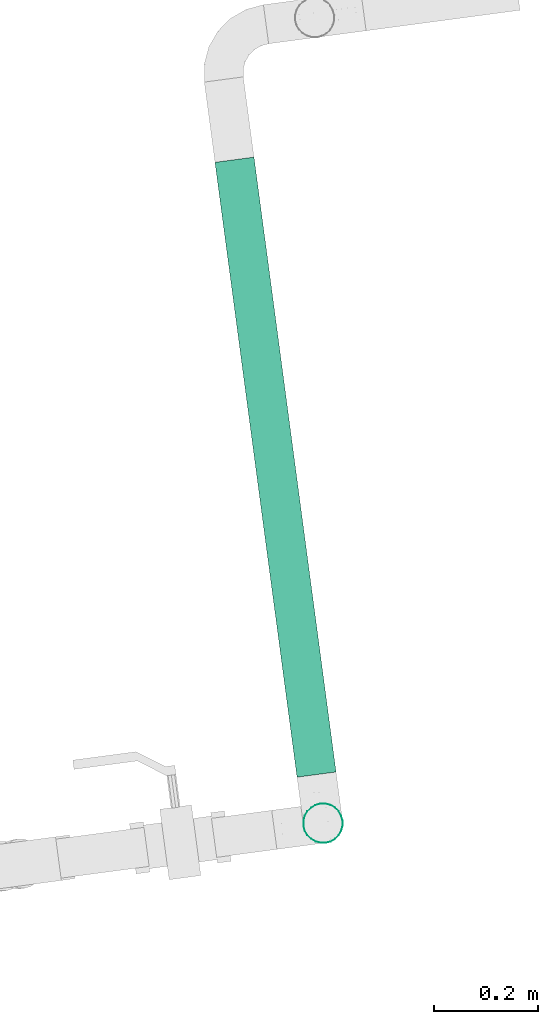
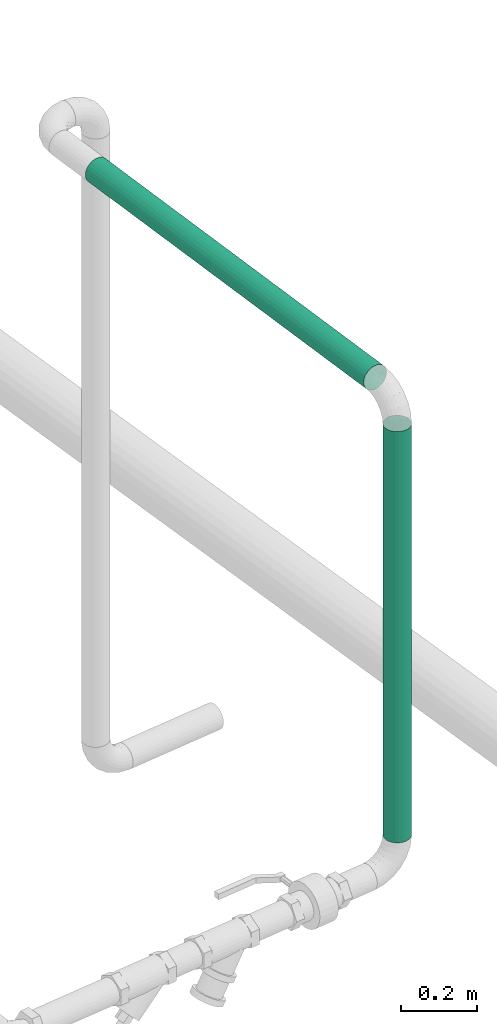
# One storey, part 231 of 374: 2 flow segments.
"""IFC2X3 building model written with IfcOpenShell, lengths in metres."""

from ifc_helpers import new_model, si_unit, direction, origin, place, context, subcontext, project, spatial, open_shell, surface_model, source, transform, mapped, element, save


model = new_model("IFC2X3")

# Units and contexts
model_context = context("Model", 3, precision=1e-05, world=origin(), true_north=direction((-0.4480736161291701, 0.8939966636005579)))
body_context = subcontext(model_context, "Body", "Model", "MODEL_VIEW")
ifc_project = project(units=[si_unit("LENGTHUNIT", "METRE"), si_unit("AREAUNIT", "SQUARE_METRE"), si_unit("VOLUMEUNIT", "CUBIC_METRE"), si_unit("PLANEANGLEUNIT", "RADIAN"), si_unit("THERMODYNAMICTEMPERATUREUNIT", "KELVIN"), si_unit("MASSUNIT", "GRAM", prefix="KILO"), si_unit("TIMEUNIT", "SECOND")], contexts=[model_context])

# Site, building, storey
site_placement = place(None, origin())
site = spatial("IfcSite", under=ifc_project, at=site_placement, Name="Site 1", CompositionType="ELEMENT")
building_placement = place(site_placement, origin())
building = spatial("IfcBuilding", under=site, at=building_placement, Name="Undefined", CompositionType="ELEMENT")
storey_placement = place(building_placement, origin())
storey = spatial("IfcBuildingStorey", under=building, at=storey_placement, Name="Rez de chauss\x8ee", CompositionType="ELEMENT", Elevation=0.0)

# Flow segments
shared_shape_1 = source(origin(), body_context, "Body", "SurfaceModel", [
    surface_model("IfcFaceBasedSurfaceModel", [(0.0, 0.009933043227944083, 0.0), (0.0, 0.0, 0.0), (1.3185660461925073, 1.4210854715e-14, -6.661338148e-15), (1.3185660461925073, 0.00993304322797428, -3.108624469e-15), (0.0, -0.009594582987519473, -0.002570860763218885), (1.3185660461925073, -0.009594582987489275, -0.002570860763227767), (0.0, -0.018196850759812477, -0.007537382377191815), (1.3185660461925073, -0.018196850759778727, -0.007537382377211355), (0.0, -0.025220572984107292, -0.014561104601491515), (1.3185660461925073, -0.025220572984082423, -0.014561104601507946), (1.4210854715e-14, -0.030187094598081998, -0.023163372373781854), (1.3185660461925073, -0.030187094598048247, -0.023163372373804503), (0.0, -0.03275795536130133, -0.032757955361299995), (1.3185660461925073, -0.03275795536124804, -0.032757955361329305), (1.4210854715e-14, -0.03275795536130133, -0.0426909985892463), (1.3185660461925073, -0.03275795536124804, -0.04269099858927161), (0.0, -0.030187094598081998, -0.052285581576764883), (1.3185660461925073, -0.030187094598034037, -0.052285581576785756), (0.0, -0.02522057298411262, -0.06088784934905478), (1.3185660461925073, -0.025220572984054, -0.06088784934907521), (0.0, -0.0181968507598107, -0.06791157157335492), (1.3185660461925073, -0.018196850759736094, -0.06791157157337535), (0.0, -0.009594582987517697, -0.07287809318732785), (1.3185660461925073, -0.009594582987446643, -0.07287809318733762), (0.0, -3.552713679e-15, -0.07544895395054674), (1.3185660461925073, 7.1054273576e-14, -0.07544895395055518), (0.0, 0.009933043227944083, -0.07544895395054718), (1.3185660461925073, 0.009933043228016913, -0.07544895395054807), (1.4210854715e-14, 0.019527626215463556, -0.07287809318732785), (1.3185660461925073, 0.0195276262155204, -0.07287809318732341), (0.0, 0.028129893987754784, -0.06791157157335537), (1.3185660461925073, 0.02812989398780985, -0.06791157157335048), (0.0, 0.03515361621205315, -0.06088784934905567), (1.3185660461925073, 0.03515361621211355, -0.060887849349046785), (0.0, 0.04012013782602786, -0.05228558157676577), (1.3185660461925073, 0.04012013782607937, -0.05228558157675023), (0.0, 0.04269099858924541, -0.04269099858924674), (1.3185660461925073, 0.04269099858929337, -0.042690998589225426), (0.0, 0.04269099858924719, -0.03275795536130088), (1.3185660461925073, 0.04269099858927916, -0.03275795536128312), (0.0, 0.04012013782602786, -0.0231633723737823), (1.3185660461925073, 0.04012013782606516, -0.023163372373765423), (0.0, 0.03515361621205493, -0.014561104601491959), (1.3185660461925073, 0.035153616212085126, -0.014561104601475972), (1.4210854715e-14, 0.028129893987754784, -0.007537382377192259), (1.3185660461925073, 0.02812989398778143, -0.00753738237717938), (7.105427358e-15, 0.019527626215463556, -0.0025708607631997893), (1.3185660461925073, 0.019527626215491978, -0.0025708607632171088)], [open_shell([[[0, 1, 2, 3]], [[1, 4, 5, 2]], [[4, 6, 7, 5]], [[6, 8, 9, 7]], [[8, 10, 11, 9]], [[10, 12, 13, 11]], [[12, 14, 15, 13]], [[14, 16, 17, 15]], [[16, 18, 19, 17]], [[18, 20, 21, 19]], [[20, 22, 23, 21]], [[22, 24, 25, 23]], [[24, 26, 27, 25]], [[26, 28, 29, 27]], [[28, 30, 31, 29]], [[30, 32, 33, 31]], [[32, 34, 35, 33]], [[34, 36, 37, 35]], [[36, 38, 39, 37]], [[38, 40, 41, 39]], [[40, 42, 43, 41]], [[42, 44, 45, 43]], [[44, 46, 47, 45]], [[46, 0, 3, 47]]])]),
])
flow_segment_1_placement = place(storey_placement, origin())
element("IfcFlowSegment", 1, at=flow_segment_1_placement, inside=storey, Name="Tube acier d'après DIN 2448", ObjectType="Tube acier d'après DIN 2448", context=body_context, shape_type="MappedRepresentation", body=[
    mapped(shared_shape_1, transform((67.67766926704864, 20.532551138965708, 0.7954328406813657), x_axis=(0.0, 0.0, 1.0), y_axis=(-0.965472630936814, -0.26050450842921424, 0.0), z_axis=(0.2605045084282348, -0.9654726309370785, 0.0))),
])
shared_shape_2 = source(origin(), body_context, "Body", "SurfaceModel", [
    surface_model("IfcFaceBasedSurfaceModel", [(1.1984839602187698, 1.776356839e-15, 0.0), (1.1984839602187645, 0.009933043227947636, 0.0), (0.0, 0.009933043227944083, 0.0), (0.0, 0.0, 0.0), (1.1984839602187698, 0.019527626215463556, -0.002570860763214), (7.105427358e-15, 0.019527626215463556, -0.0025708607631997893), (1.1984839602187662, 0.02812989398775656, -0.007537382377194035), (1.4210854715e-14, 0.028129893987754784, -0.007537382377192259), (1.1984839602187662, 0.03515361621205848, -0.014561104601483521), (0.0, 0.03515361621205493, -0.014561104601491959), (1.198483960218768, 0.040120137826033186, -0.02316337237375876), (0.0, 0.04012013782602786, -0.0231633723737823), (1.1984839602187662, 0.042690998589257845, -0.03275795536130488), (0.0, 0.04269099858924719, -0.03275795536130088), (1.1984839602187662, 0.0426909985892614, -0.04269099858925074), (0.0, 0.04269099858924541, -0.04269099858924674), (1.198483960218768, 0.04012013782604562, -0.052285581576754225), (0.0, 0.04012013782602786, -0.05228558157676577), (1.1984839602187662, 0.03515361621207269, -0.06088784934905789), (0.0, 0.03515361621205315, -0.06088784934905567), (1.1984839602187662, 0.028129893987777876, -0.06791157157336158), (0.0, 0.028129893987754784, -0.06791157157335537), (1.198483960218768, 0.01952762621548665, -0.07287809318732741), (1.4210854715e-14, 0.019527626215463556, -0.07287809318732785), (1.1984839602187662, 0.009933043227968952, -0.07544895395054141), (0.0, 0.009933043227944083, -0.07544895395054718), (1.198483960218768, 2.3092638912e-14, -0.07544895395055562), (0.0, -3.552713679e-15, -0.07544895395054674), (1.1984839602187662, -0.009594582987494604, -0.07287809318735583), (0.0, -0.009594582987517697, -0.07287809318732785), (1.1984839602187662, -0.01819685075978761, -0.0679115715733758), (0.0, -0.0181968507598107, -0.06791157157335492), (1.198483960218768, -0.025220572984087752, -0.0608878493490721), (0.0, -0.02522057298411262, -0.06088784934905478), (1.1984839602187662, -0.03018709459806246, -0.05228558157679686), (0.0, -0.030187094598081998, -0.052285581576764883), (1.1984839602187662, -0.03275795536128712, -0.04269099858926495), (1.4210854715e-14, -0.03275795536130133, -0.0426909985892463), (1.198483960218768, -0.03275795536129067, -0.03275795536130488), (0.0, -0.03275795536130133, -0.032757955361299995), (1.1984839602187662, -0.030187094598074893, -0.023163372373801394), (1.4210854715e-14, -0.030187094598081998, -0.023163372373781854), (1.1984839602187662, -0.02522057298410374, -0.014561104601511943), (0.0, -0.025220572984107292, -0.014561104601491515), (1.1984839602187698, -0.01819685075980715, -0.007537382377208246), (0.0, -0.018196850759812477, -0.007537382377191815), (1.1984839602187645, -0.00959458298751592, -0.002570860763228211), (0.0, -0.009594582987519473, -0.002570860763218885)], [open_shell([[[0, 1, 2, 3]], [[1, 4, 5, 2]], [[4, 6, 7, 5]], [[6, 8, 9, 7]], [[8, 10, 11, 9]], [[10, 12, 13, 11]], [[12, 14, 15, 13]], [[14, 16, 17, 15]], [[16, 18, 19, 17]], [[18, 20, 21, 19]], [[20, 22, 23, 21]], [[22, 24, 25, 23]], [[24, 26, 27, 25]], [[26, 28, 29, 27]], [[28, 30, 31, 29]], [[30, 32, 33, 31]], [[32, 34, 35, 33]], [[34, 36, 37, 35]], [[36, 38, 39, 37]], [[38, 40, 41, 39]], [[40, 42, 43, 41]], [[42, 44, 45, 43]], [[44, 46, 47, 45]], [[46, 0, 3, 47]]])]),
])
flow_segment_2_placement = place(storey_placement, origin())
element("IfcFlowSegment", 2, at=flow_segment_2_placement, inside=storey, Name="Tube acier d'après DIN 2448", ObjectType="Tube acier d'après DIN 2448", context=body_context, shape_type="MappedRepresentation", body=[
    mapped(shared_shape_2, transform((67.52969106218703, 21.85483304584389, 2.2089988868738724), x_axis=(0.13225639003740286, -0.9912155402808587, 0.0), y_axis=(-0.12937959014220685, -0.017262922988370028, -0.9914448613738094), z_axis=(0.9827355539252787, 0.13112491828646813, -0.13052619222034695))),
])

save(model, "model.ifc")
